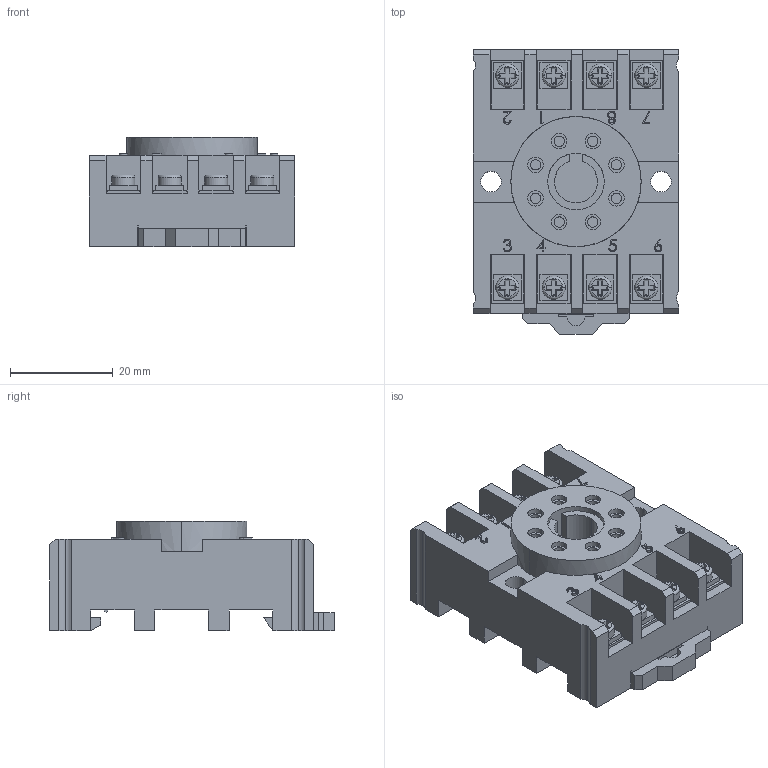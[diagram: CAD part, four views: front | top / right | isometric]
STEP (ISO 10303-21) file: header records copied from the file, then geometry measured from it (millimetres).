
FILE_DESCRIPTION (( 'STEP AP203' ), '1' );
FILE_NAME ('PRT9-08.STEP', '2019-02-22T20:05:52', ( '' ), ( '' ), 'SwSTEP 2.0', 'SolidWorks 2012', '' );
FILE_SCHEMA (( 'CONFIG_CONTROL_DESIGN' ));
Length unit declared in the file: millimetre
Products named in the file (1): PRT9-08
Bounding box: 40 x 55.2 x 21.2 mm (x, y, z)
Volume: 27283.4 mm3; surface area: 11672.1 mm2
Topology: 1 solids, 1 shells, 529 faces, 1391 edges, 920 vertices
Faces by surface type: plane 393, cylinder 66, bspline 54, torus 16
Entity records: 19116 total; most frequent: CARTESIAN_POINT 6151, ORIENTED_EDGE 2782, DIRECTION 2405, EDGE_CURVE 1391, VECTOR 1113, LINE 1113, VERTEX_POINT 920, AXIS2_PLACEMENT_3D 646
